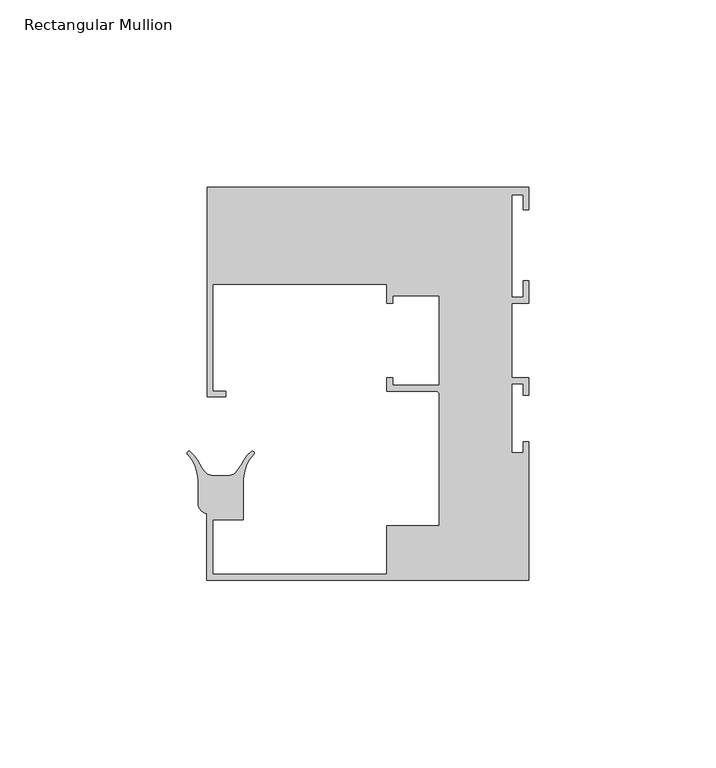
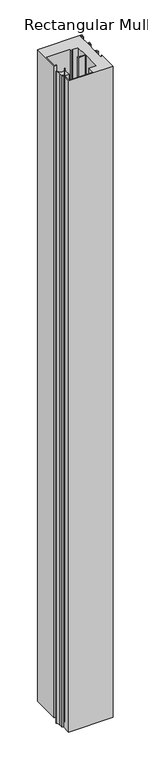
"""IFC4 building model written with IfcOpenShell, lengths in millimetres: member geometry, Rectangular Mullion : Danpal_Airpt_End-Mullion_B2."""

from ifc_helpers import new_model, si_unit, point, frame, frame_2d, origin, place, context, project, spatial, polyline, circle_curve, trimmed, segment, composite_curve, outline, extrude, source, transform, mapped, element, save


def rectangular_mullion_26b2b2e0(model_context):
    return source(origin(), model_context, "Body", "SweptSolid", [
        extrude(outline(composite_curve([segment(polyline([(-84.5, 44.249979), (-84.5, 15.7500001), (-81.0, 15.7500001), (-81.0, 14.2500001), (-86.0, 14.2500001), (-86.0, 70.2500001), (0.0, 70.2500001), (0.0, 64.2500001), (-1.5, 64.2500001), (-1.5, 68.2500001), (-4.5, 68.2500001), (-4.5, 40.7500001), (-1.5180937, 40.7500001), (-1.5180937, 45.2500001), (-0.0180937, 45.2500001), (-0.0180937, 39.2500001), (-4.5, 39.2500001), (-4.5, 19.25), (-0.0180922, 19.25), (-0.0180922, 14.65), (-1.5180922, 14.65), (-1.5180922, 17.65), (-4.5180922, 17.65), (-4.5180922, -0.75), (-1.5180922, -0.75), (-1.5180922, 2.25), (-0.0180922, 2.25), (-0.0180922, -34.75), (-86.0180914, -34.75), (-86.0180914, -17.0365625)]), True, "CONTINUOUS"), segment(trimmed(circle_curve(frame_2d((-85.366716, -14.1081309)), 3.0000002), [point((-86.0180914, -17.0365625))], [point((-88.3666989, -14.1183419))], False, "CARTESIAN"), True, "CONTINUOUS"), segment(polyline([(-88.3666989, -14.1183419), (-88.3666989, -8.1181379)]), True, "CONTINUOUS"), segment(trimmed(circle_curve(frame_2d((-98.3666403, -8.1523787)), 10.0), [point((-88.3666989, -8.1181379))], [point((-91.1789286, -1.1999114))], True, "CARTESIAN"), True, "CONTINUOUS"), segment(trimmed(circle_curve(frame_2d((-90.8194227, -0.8521716)), 0.5001675), [point((-91.1789286, -1.1999114))], [point((-90.4970116, -0.4697862))], False, "CARTESIAN"), True, "CONTINUOUS"), segment(trimmed(circle_curve(frame_2d((-96.9430732, -8.114934)), 9.9999998), [point((-90.4970116, -0.4697862))], [point((-87.9289412, -3.785336))], False, "CARTESIAN"), True, "CONTINUOUS"), segment(trimmed(circle_curve(frame_2d((-78.9148092, 0.544262)), 9.9999997), [point((-87.9289412, -3.785336))], [point((-86.6990305, -5.7331494))], True, "CARTESIAN"), True, "CONTINUOUS"), segment(trimmed(circle_curve(frame_2d((-84.363764, -3.8499259)), 3.0), [point((-86.6990305, -5.7331494))], [point((-84.363764, -6.8499259))], True, "CARTESIAN"), True, "CONTINUOUS"), segment(polyline([(-84.363764, -6.8499259), (-80.32512, -6.8499259)]), True, "CONTINUOUS"), segment(trimmed(circle_curve(frame_2d((-80.32512, -3.8499259)), 3.0), [point((-80.32512, -6.8499259))], [point((-77.9898528, -5.7331484))], True, "CARTESIAN"), True, "CONTINUOUS"), segment(trimmed(circle_curve(frame_2d((-85.7740768, 0.5442599)), 10.0), [point((-77.9898528, -5.7331484))], [point((-76.759944, -3.7853369))], True, "CARTESIAN"), True, "CONTINUOUS"), segment(trimmed(circle_curve(frame_2d((-67.7458114, -8.1149337)), 9.9999997), [point((-76.759944, -3.7853369))], [point((-74.1944462, -0.4719563))], False, "CARTESIAN"), True, "CONTINUOUS"), segment(trimmed(circle_curve(frame_2d((-73.8718016, -0.8543575)), 0.5003301), [point((-74.1944462, -0.4719563))], [point((-73.5120728, -1.2021009))], False, "CARTESIAN"), True, "CONTINUOUS"), segment(trimmed(circle_curve(frame_2d((-66.322244, -8.1523787)), 10.0), [point((-73.5120728, -1.2021009))], [point((-76.3180945, -7.8643287))], True, "CARTESIAN"), True, "CONTINUOUS"), segment(polyline([(-76.3180945, -7.8643287), (-76.3180945, -18.6499969), (-84.5180945, -18.6499969), (-84.5180945, -33.2499969), (-38.0180899, -33.2499969), (-38.0180899, -20.2499969), (-23.9180899, -20.2499969), (-23.9180899, 14.698377)]), True, "CONTINUOUS"), segment(trimmed(circle_curve(frame_2d((-24.969716, 14.698377)), 1.0516261), [point((-23.9180899, 14.698377))], [point((-24.969716, 15.7500031))], True, "CARTESIAN"), True, "CONTINUOUS"), segment(polyline([(-24.969716, 15.7500031), (-38.0180899, 15.7500031), (-38.0180899, 19.2500031), (-36.4180899, 19.2500031), (-36.4180899, 17.2500031), (-23.9180899, 17.2500031), (-23.9180899, 41.2500001), (-36.4, 41.2500001), (-36.4, 39.2500001), (-38.0, 39.2500001), (-38.0, 44.249979), (-84.5, 44.249979)]), True, "CONTINUOUS")], self_intersect=False)), frame((0.0, 0.0, -1333.3333333), z_axis=(0.0, 0.0, 1.0), x_axis=(1.0, 0.0, 0.0)), (0.0, 0.0, 1.0), 1333.3333333),
    ])


if __name__ == "__main__":
    model = new_model("IFC4")
    model_context = context("Model", 3, world=origin())
    ifc_project = project(units=[si_unit("LENGTHUNIT", "METRE", prefix="MILLI")], contexts=[model_context])
    site = spatial("IfcSite", under=ifc_project)
    building = spatial("IfcBuilding", under=site)
    placement = place(None, origin())
    rectangular_mullion_shape = rectangular_mullion_26b2b2e0(model_context)
    element("IfcMember", 1, ObjectType="Rectangular Mullion : Danpal_Airpt_End-Mullion_B2", at=placement, inside=building, context=model_context, shape_type="MappedRepresentation", body=[
        mapped(rectangular_mullion_shape, transform((0.0, 0.0, 0.0), x_axis=(1.0, 0.0, 0.0), y_axis=(0.0, 1.0, 0.0), z_axis=(0.0, 0.0, 1.0))),
    ])
    save(model, "model.ifc")
